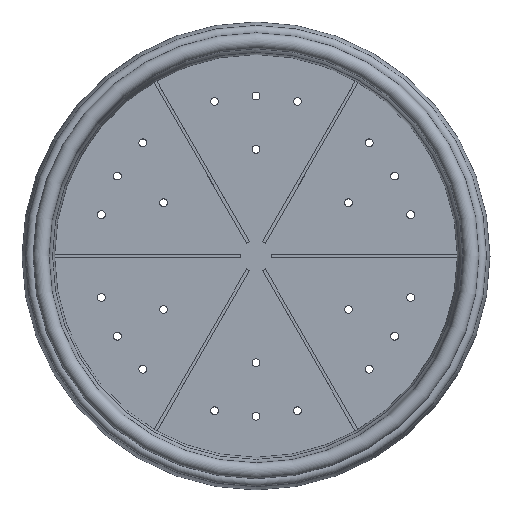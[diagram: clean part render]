
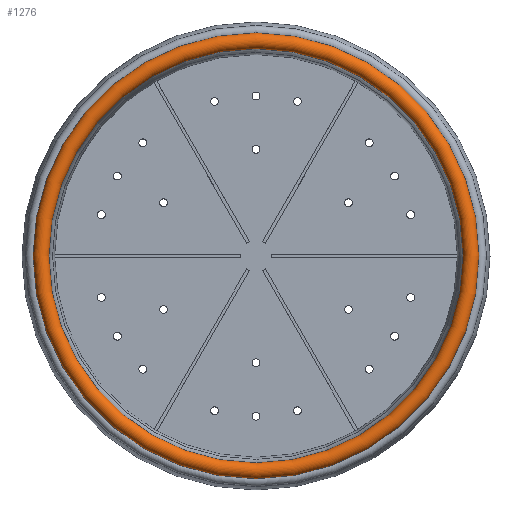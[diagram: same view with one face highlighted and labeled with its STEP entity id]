
A CAD part, top view. The second image highlights one B-rep face of the part: STEP entity #1276.
In plain terms, the highlighted toroidal (fillet/blend) face has major radius 136 mm and minor radius 5 mm.
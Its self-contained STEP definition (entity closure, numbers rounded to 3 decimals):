
#18=TOROIDAL_SURFACE('',#1441,136.,5.);
#154=FACE_OUTER_BOUND('',#245,.T.);
#245=EDGE_LOOP('',(#1097,#1098,#1099,#1100));
#522=CIRCLE('',#1440,139.83);
#523=CIRCLE('',#1442,131.);
#524=CIRCLE('',#1443,5.);
#643=VERTEX_POINT('',#2201);
#644=VERTEX_POINT('',#2205);
#810=EDGE_CURVE('',#643,#643,#522,.T.);
#812=EDGE_CURVE('',#644,#644,#523,.T.);
#813=EDGE_CURVE('',#644,#643,#524,.T.);
#1097=ORIENTED_EDGE('',*,*,#812,.F.);
#1098=ORIENTED_EDGE('',*,*,#813,.T.);
#1099=ORIENTED_EDGE('',*,*,#810,.T.);
#1100=ORIENTED_EDGE('',*,*,#813,.F.);
#1276=ADVANCED_FACE('',(#154),#18,.T.);
#1440=AXIS2_PLACEMENT_3D('',#2202,#1821,#1822);
#1441=AXIS2_PLACEMENT_3D('',#2204,#1824,#1825);
#1442=AXIS2_PLACEMENT_3D('',#2206,#1826,#1827);
#1443=AXIS2_PLACEMENT_3D('',#2207,#1828,#1829);
#1821=DIRECTION('center_axis',(0.,0.,1.));
#1822=DIRECTION('ref_axis',(1.,0.,0.));
#1824=DIRECTION('center_axis',(0.,0.,1.));
#1825=DIRECTION('ref_axis',(1.,0.,0.));
#1826=DIRECTION('center_axis',(0.,0.,1.));
#1827=DIRECTION('ref_axis',(1.,0.,0.));
#1828=DIRECTION('center_axis',(0.,-1.,0.));
#1829=DIRECTION('ref_axis',(-1.,0.,0.));
#2201=CARTESIAN_POINT('',(-139.83,0.,91.786));
#2202=CARTESIAN_POINT('Origin',(0.,0.,91.786));
#2204=CARTESIAN_POINT('Origin',(0.,0.,95.));
#2205=CARTESIAN_POINT('',(-131.,0.,95.));
#2206=CARTESIAN_POINT('Origin',(0.,0.,95.));
#2207=CARTESIAN_POINT('Origin',(-136.,0.,
95.));
